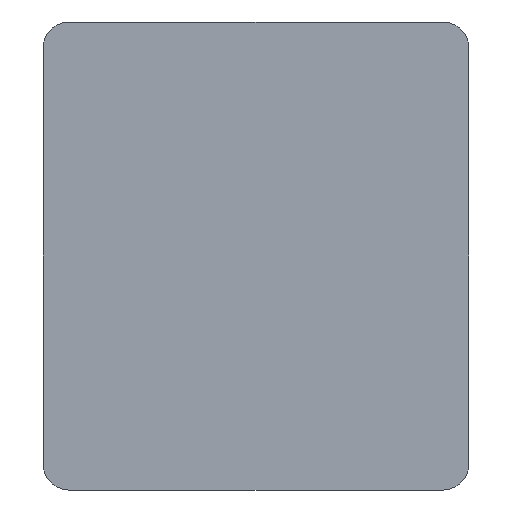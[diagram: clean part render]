
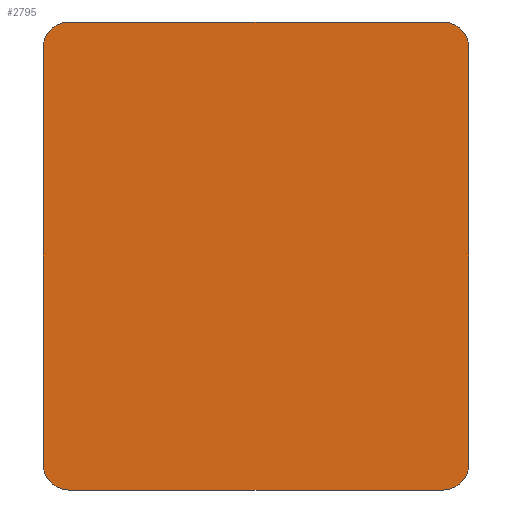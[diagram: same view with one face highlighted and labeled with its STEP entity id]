
A CAD part, front view. The second image highlights one B-rep face of the part: STEP entity #2795.
In plain terms, the highlighted planar face has unit normal (0, -1, 0).
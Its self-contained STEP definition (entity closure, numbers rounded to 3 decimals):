
#226=PLANE('',#3087);
#369=FACE_OUTER_BOUND('',#525,.T.);
#525=EDGE_LOOP('',(#2498,#2499,#2500,#2501,#2502,#2503,#2504,#2505));
#773=LINE('',#4881,#1020);
#774=LINE('',#4885,#1021);
#775=LINE('',#4889,#1022);
#776=LINE('',#4892,#1023);
#1020=VECTOR('',#3878,10.);
#1021=VECTOR('',#3881,10.);
#1022=VECTOR('',#3884,10.);
#1023=VECTOR('',#3887,10.);
#1172=CIRCLE('',#3088,12.);
#1173=CIRCLE('',#3089,12.);
#1174=CIRCLE('',#3090,12.);
#1175=CIRCLE('',#3091,12.);
#1443=VERTEX_POINT('',#4877);
#1444=VERTEX_POINT('',#4878);
#1445=VERTEX_POINT('',#4880);
#1446=VERTEX_POINT('',#4882);
#1447=VERTEX_POINT('',#4884);
#1448=VERTEX_POINT('',#4886);
#1449=VERTEX_POINT('',#4888);
#1450=VERTEX_POINT('',#4890);
#1815=EDGE_CURVE('',#1443,#1444,#1172,.T.);
#1816=EDGE_CURVE('',#1444,#1445,#773,.T.);
#1817=EDGE_CURVE('',#1445,#1446,#1173,.T.);
#1818=EDGE_CURVE('',#1446,#1447,#774,.T.);
#1819=EDGE_CURVE('',#1447,#1448,#1174,.T.);
#1820=EDGE_CURVE('',#1448,#1449,#775,.T.);
#1821=EDGE_CURVE('',#1449,#1450,#1175,.T.);
#1822=EDGE_CURVE('',#1450,#1443,#776,.T.);
#2498=ORIENTED_EDGE('',*,*,#1815,.T.);
#2499=ORIENTED_EDGE('',*,*,#1816,.T.);
#2500=ORIENTED_EDGE('',*,*,#1817,.T.);
#2501=ORIENTED_EDGE('',*,*,#1818,.T.);
#2502=ORIENTED_EDGE('',*,*,#1819,.T.);
#2503=ORIENTED_EDGE('',*,*,#1820,.T.);
#2504=ORIENTED_EDGE('',*,*,#1821,.T.);
#2505=ORIENTED_EDGE('',*,*,#1822,.T.);
#2795=ADVANCED_FACE('',(#369),#226,.T.);
#3087=AXIS2_PLACEMENT_3D('',#4876,#3874,#3875);
#3088=AXIS2_PLACEMENT_3D('',#4879,#3876,#3877);
#3089=AXIS2_PLACEMENT_3D('',#4883,#3879,#3880);
#3090=AXIS2_PLACEMENT_3D('',#4887,#3882,#3883);
#3091=AXIS2_PLACEMENT_3D('',#4891,#3885,#3886);
#3874=DIRECTION('center_axis',(0.,-1.,0.));
#3875=DIRECTION('ref_axis',(0.,0.,-1.));
#3876=DIRECTION('center_axis',(0.,-1.,0.));
#3877=DIRECTION('ref_axis',(0.,0.,1.));
#3878=DIRECTION('',(0.,0.,-1.));
#3879=DIRECTION('center_axis',(0.,-1.,0.));
#3880=DIRECTION('ref_axis',(-1.,0.,0.));
#3881=DIRECTION('',(1.,0.,0.));
#3882=DIRECTION('center_axis',(0.,-1.,0.));
#3883=DIRECTION('ref_axis',(0.,0.,-1.));
#3884=DIRECTION('',(0.,0.,1.));
#3885=DIRECTION('center_axis',(0.,-1.,0.));
#3886=DIRECTION('ref_axis',(1.,0.,0.));
#3887=DIRECTION('',(-1.,0.,0.));
#4876=CARTESIAN_POINT('Origin',(58.,-132.5,-33.));
#4877=CARTESIAN_POINT('',(-30.,-132.5,77.));
#4878=CARTESIAN_POINT('',(-42.,-132.5,65.));
#4879=CARTESIAN_POINT('Origin',(-30.,-132.5,65.));
#4880=CARTESIAN_POINT('',(-42.,-132.5,-131.));
#4881=CARTESIAN_POINT('',(-42.,-132.5,65.));
#4882=CARTESIAN_POINT('',(-30.,-132.5,-143.));
#4883=CARTESIAN_POINT('Origin',(-30.,-132.5,-131.));
#4884=CARTESIAN_POINT('',(146.,-132.5,-143.));
#4885=CARTESIAN_POINT('',(-30.,-132.5,-143.));
#4886=CARTESIAN_POINT('',(158.,-132.5,-131.));
#4887=CARTESIAN_POINT('Origin',(146.,-132.5,-131.));
#4888=CARTESIAN_POINT('',(158.,-132.5,65.));
#4889=CARTESIAN_POINT('',(158.,-132.5,-131.));
#4890=CARTESIAN_POINT('',(146.,-132.5,77.));
#4891=CARTESIAN_POINT('Origin',(146.,-132.5,65.));
#4892=CARTESIAN_POINT('',(146.,-132.5,77.));
